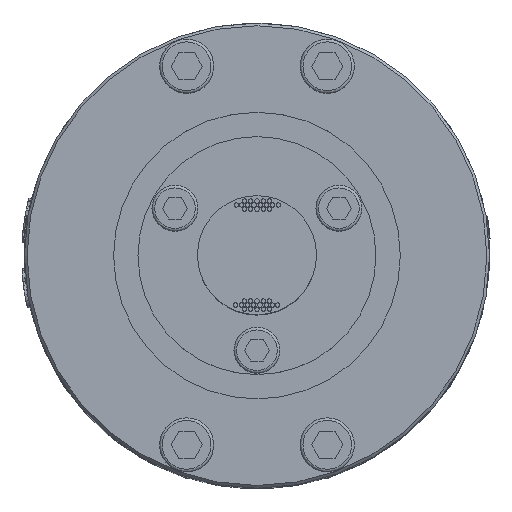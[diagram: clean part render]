
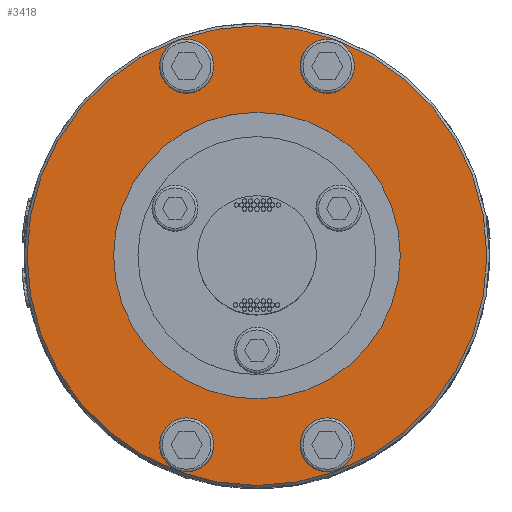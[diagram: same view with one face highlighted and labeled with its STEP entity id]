
A CAD part, top view. The second image highlights one B-rep face of the part: STEP entity #3418.
In plain terms, the highlighted planar face has unit normal (0, 0, 1).
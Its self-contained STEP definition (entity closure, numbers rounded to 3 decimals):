
#755=FACE_BOUND('',#6995,.T.);
#756=FACE_BOUND('',#6996,.T.);
#757=FACE_BOUND('',#6997,.T.);
#758=FACE_BOUND('',#6998,.T.);
#759=FACE_BOUND('',#6999,.T.);
#760=FACE_BOUND('',#7000,.T.);
#1010=CIRCLE('',#26551,5.);
#1013=CIRCLE('',#26564,5.);
#1016=CIRCLE('',#26577,5.);
#1019=CIRCLE('',#26590,5.);
#1106=CIRCLE('',#26785,26.5);
#1108=CIRCLE('',#26789,42.5);
#3418=ADVANCED_FACE('',(#755,#756,#757,#758,#759,#760),#3958,.T.);
#3958=PLANE('',#26793);
#6995=EDGE_LOOP('',(#16085));
#6996=EDGE_LOOP('',(#16086));
#6997=EDGE_LOOP('',(#16087));
#6998=EDGE_LOOP('',(#16088));
#6999=EDGE_LOOP('',(#16089));
#7000=EDGE_LOOP('',(#16090));
#16085=ORIENTED_EDGE('',*,*,#22086,.F.);
#16086=ORIENTED_EDGE('',*,*,#22107,.F.);
#16087=ORIENTED_EDGE('',*,*,#22128,.F.);
#16088=ORIENTED_EDGE('',*,*,#22149,.F.);
#16089=ORIENTED_EDGE('',*,*,#22290,.T.);
#16090=ORIENTED_EDGE('',*,*,#22292,.T.);
#18474=VERTEX_POINT('',#53178);
#18489=VERTEX_POINT('',#53224);
#18504=VERTEX_POINT('',#53270);
#18519=VERTEX_POINT('',#53316);
#18642=VERTEX_POINT('',#53688);
#18644=VERTEX_POINT('',#53694);
#22086=EDGE_CURVE('',#18474,#18474,#1010,.T.);
#22107=EDGE_CURVE('',#18489,#18489,#1013,.T.);
#22128=EDGE_CURVE('',#18504,#18504,#1016,.T.);
#22149=EDGE_CURVE('',#18519,#18519,#1019,.T.);
#22290=EDGE_CURVE('',#18642,#18642,#1106,.T.);
#22292=EDGE_CURVE('',#18644,#18644,#1108,.T.);
#26551=AXIS2_PLACEMENT_3D('',#53177,#29613,#29614);
#26564=AXIS2_PLACEMENT_3D('',#53223,#29657,#29658);
#26577=AXIS2_PLACEMENT_3D('',#53269,#29701,#29702);
#26590=AXIS2_PLACEMENT_3D('',#53315,#29745,#29746);
#26785=AXIS2_PLACEMENT_3D('',#53687,#30189,#30190);
#26789=AXIS2_PLACEMENT_3D('',#53693,#30197,#30198);
#26793=AXIS2_PLACEMENT_3D('',#53699,#30205,#30206);
#29613=DIRECTION('',(0.,0.,1.));
#29614=DIRECTION('',(-1.,0.,0.));
#29657=DIRECTION('',(0.,0.,1.));
#29658=DIRECTION('',(-1.,0.,0.));
#29701=DIRECTION('',(0.,0.,1.));
#29702=DIRECTION('',(-1.,0.,0.));
#29745=DIRECTION('',(0.,0.,1.));
#29746=DIRECTION('',(-1.,0.,0.));
#30189=DIRECTION('',(0.,0.,-1.));
#30190=DIRECTION('',(1.,0.,0.));
#30197=DIRECTION('',(0.,0.,1.));
#30198=DIRECTION('',(1.,0.,0.));
#30205=DIRECTION('',(0.,0.,1.));
#30206=DIRECTION('',(1.,0.,0.));
#53177=CARTESIAN_POINT('',(13.,35.,111.));
#53178=CARTESIAN_POINT('',(8.,35.,111.));
#53223=CARTESIAN_POINT('',(-13.,35.,111.));
#53224=CARTESIAN_POINT('',(-18.,35.,111.));
#53269=CARTESIAN_POINT('',(-13.,-35.,111.));
#53270=CARTESIAN_POINT('',(-18.,-35.,111.));
#53315=CARTESIAN_POINT('',(13.,-35.,111.));
#53316=CARTESIAN_POINT('',(8.,-35.,111.));
#53687=CARTESIAN_POINT('',(0.,0.,111.));
#53688=CARTESIAN_POINT('',(26.5,0.,111.));
#53693=CARTESIAN_POINT('',(0.,0.,111.));
#53694=CARTESIAN_POINT('',(42.5,0.,111.));
#53699=CARTESIAN_POINT('',(0.,0.,111.));
